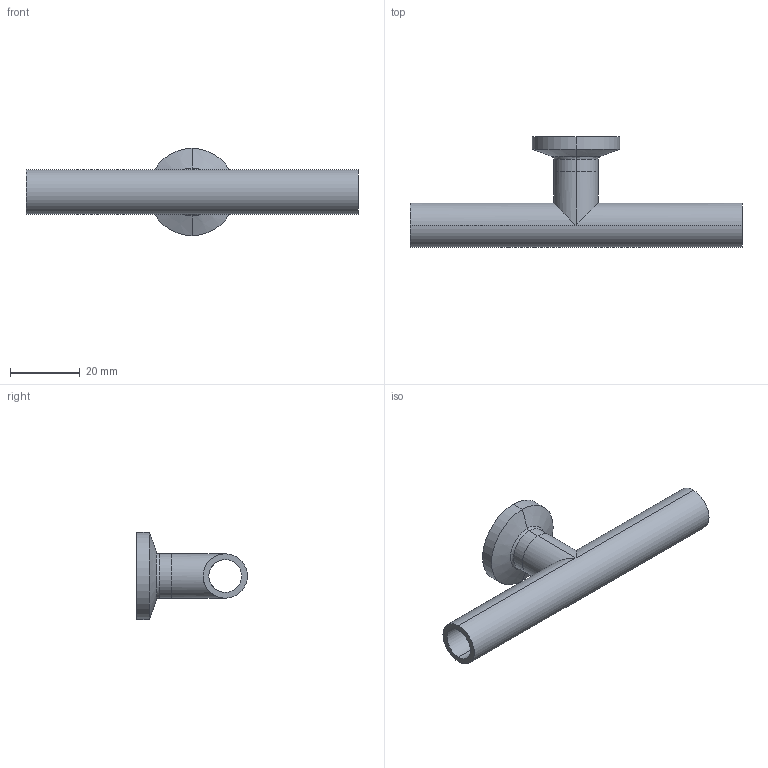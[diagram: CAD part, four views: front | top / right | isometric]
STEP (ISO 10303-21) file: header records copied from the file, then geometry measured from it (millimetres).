
FILE_DESCRIPTION (( 'STEP AP214' ), '1' );
FILE_NAME ('TE7WWCS6L.5-...STEP', '2016-05-24T11:57:16', ( 'eran' ), ( '' ), 'SwSTEP 2.0', 'SolidWorks 2016', '' );
FILE_SCHEMA (( 'AUTOMOTIVE_DESIGN' ));
Length unit declared in the file: millimetre
Products named in the file (1): TE7WWCS6L.5-..
Bounding box: 95.2 x 31.75 x 24.99 mm (x, y, z)
Volume: 7818.7 mm3; surface area: 9075.7 mm2
Topology: 2 solids, 2 shells, 36 faces, 74 edges, 42 vertices
Faces by surface type: cylinder 18, bspline 8, plane 6, cone 4
Entity records: 1087 total; most frequent: CARTESIAN_POINT 297, DIRECTION 166, ORIENTED_EDGE 148, EDGE_CURVE 74, AXIS2_PLACEMENT_3D 71, CIRCLE 42, EDGE_LOOP 42, VERTEX_POINT 42
